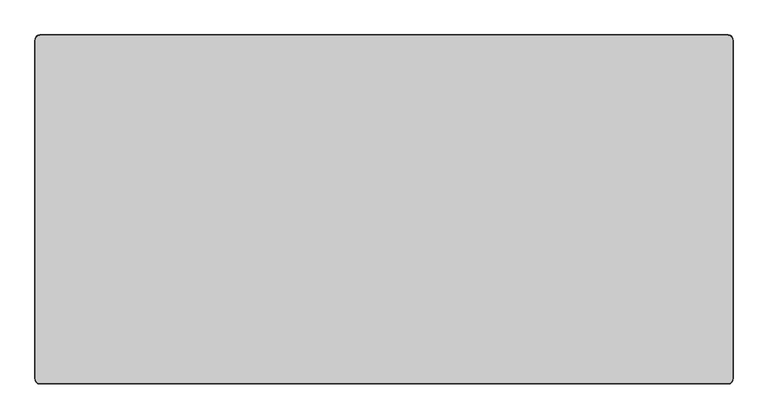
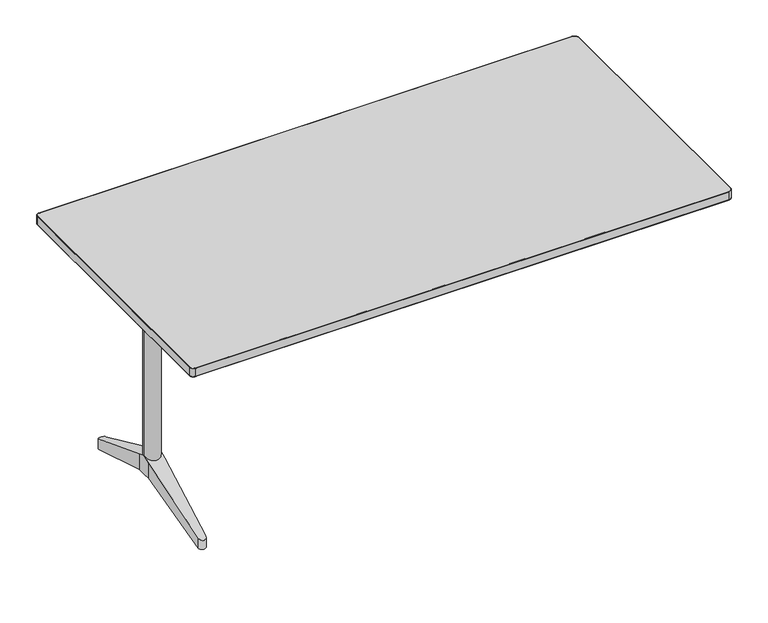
"""IFC4 building model written with IfcOpenShell, lengths in millimetres: furniture geometry, Furniture_Wilkhahn_612-51_TimetableSmart : TIMETABLE SMART 612/51 1500L x 0750W."""

from ifc_helpers import new_model, si_unit, point, frame, frame_2d, origin, place, context, project, spatial, polyline, circle_curve, ellipse_curve, trimmed, segment, composite_curve, outline, extrude, source, transform, mapped, element, save
from ifc_brep_helpers import plane_surface, cylinder_surface, revolved_surface, advanced_brep


def furniture_98f6b03f(model_context):
    return source(origin(), model_context, "Body", "SolidModel", [
        advanced_brep(
        [(-633.227182, -113.0675149, 88.8098467), (-653.3042073, -113.0675149, 88.8098467), (-665.7478455, 103.4511538, 165.9000199), (-620.7835638, 103.4511538, 165.9000199), (-633.2821683, -114.0242798, 118.1504308), (-620.7835661, 103.452023, 210.3603745), (-620.7657234, 125.9511569, 219.9000064), (-665.7657383, 125.9511569, 219.9000064), (-665.7657383, 103.4511538, 210.360006), (-653.2492204, -114.0242831, 118.1504294), (-633.2821683, -114.0242798, 88.8098467), (-653.2492204, -114.0242831, 88.8098467), (-633.227182, 364.9698238, 88.8098467), (-653.3042073, 364.9698238, 88.8098467), (-653.2492204, 365.926592, 88.8098467), (-633.2821683, 365.9265887, 88.8098467), (-620.7835661, 148.4502859, 210.3603745), (-633.2821683, 365.9265887, 118.1504308), (-653.2492204, 365.926592, 118.1504294), (-665.7478455, 148.4511551, 210.360006), (-620.7835638, 148.4502451, 165.9003439), (-665.7478455, 148.4511551, 165.9000199), (-620.7657234, 125.9511544, 165.9000199), (-665.7657383, 125.9511544, 165.9000199)],
        [
            (0, 1),
            (1, 2),
            (2, 3),
            (3, 0),
            (4, 5),
            (5, 6),
            (6, 7),
            (7, 8),
            (8, 9),
            (9, 4, ellipse_curve(frame((-643.2656945, -113.4505156, 118.3937069), z_axis=(0.0, -0.39036065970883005, 0.9206620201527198), x_axis=(0.0, -0.9206620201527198, -0.3903606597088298)), 10.8617492, 10.0)),
            (0, 10),
            (10, 11, circle_curve(frame((-643.2656945, -113.4505156, 88.8098467), z_axis=(0.0, 0.0, -1.0), x_axis=(1.0, 0.0, 0.0)), 10.0)),
            (11, 1),
            (12, 13),
            (13, 14),
            (14, 15, circle_curve(frame((-643.2656945, 365.3528245, 88.8098467), z_axis=(0.0, 0.0, -1.0), x_axis=(1.0, 0.0, 0.0)), 10.0)),
            (15, 12),
            (16, 17),
            (17, 18, ellipse_curve(frame((-643.2656945, 365.3528245, 118.3937069), z_axis=(0.0, 0.39036065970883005, 0.9206620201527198), x_axis=(0.0, 0.9206620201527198, -0.3903606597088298)), 10.8617492, 10.0)),
            (18, 19),
            (19, 7),
            (6, 16),
            (12, 20),
            (20, 21),
            (21, 13),
            (15, 17),
            (16, 20),
            (18, 14),
            (21, 19),
            (4, 10),
            (3, 5),
            (9, 11),
            (8, 2),
            (3, 22),
            (22, 20),
            (21, 23),
            (23, 2),
            (23, 22),
        ],
        [
            plane_surface(frame((-620.7657234, -113.0675149, 88.8098467), z_axis=(0.0, 0.33541814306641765, -0.9420693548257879), x_axis=(-1.0, 0.0, 0.0))),
            plane_surface(frame((-620.7657234, 103.4511538, 210.360006), z_axis=(0.0, -0.39036065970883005, 0.9206620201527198), x_axis=(-1.0, 0.0, 0.0))),
            plane_surface(frame((-620.7657234, -124.5346363, 88.8098467), z_axis=(0.0, 0.0, -1.0), x_axis=(-1.0, 0.0, 0.0))),
            plane_surface(frame((-620.7657234, 364.9698238, 88.8098467), z_axis=(0.0, 0.0, -1.0), x_axis=(-1.0, 0.0, 0.0))),
            plane_surface(frame((-620.7657234, 376.4369452, 113.6940401), z_axis=(0.0, 0.39036065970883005, 0.9206620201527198), x_axis=(-1.0, 0.0, 0.0))),
            plane_surface(frame((-620.7657234, 148.4511551, 165.9000199), z_axis=(0.0, -0.33541814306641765, -0.9420693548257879), x_axis=(-1.0, 0.0, 0.0))),
            plane_surface(frame((-633.2821683, 365.9265887, 234.8098558), z_axis=(0.9983526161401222, 0.0573764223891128, 0.0), x_axis=(0.0, 0.0, -1.0))),
            plane_surface(frame((-665.7478455, 148.4511551, 234.8098558), z_axis=(-0.9983525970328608, 0.0573767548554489, 0.0), x_axis=(0.0, 0.0, -1.0))),
            cylinder_surface(frame((-643.2656945, 365.3528245, 75.8098498), z_axis=(0.0, 0.0, -1.0), x_axis=(1.0, 0.0, 0.0)), 10.0),
            plane_surface(frame((-620.7836161, 103.4511538, 234.8098558), z_axis=(0.9983526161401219, -0.05737642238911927, 0.0), x_axis=(0.0, 0.0, -1.0))),
            cylinder_surface(frame((-643.2656945, -113.4505156, -14.1901527), z_axis=(0.0, 0.0, -1.0), x_axis=(1.0, 0.0, 0.0)), 10.0),
            plane_surface(frame((-653.2492204, -114.0242831, 234.8098558), z_axis=(-0.9983525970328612, -0.05737675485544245, 0.0), x_axis=(0.0, 0.0, -1.0))),
            plane_surface(frame((-620.7657234, 148.4511551, 210.360006), z_axis=(1.0, 0.0, 0.0), x_axis=(0.0, -0.9206619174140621, 0.3903609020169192))),
            plane_surface(frame((-665.7657383, 148.4511551, 210.360006), z_axis=(-1.0, 0.0, 0.0), x_axis=(0.0, 0.9206619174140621, -0.3903609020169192))),
            plane_surface(frame((-620.7657234, 103.4511538, 165.9000199), z_axis=(0.0, 0.0, -1.0), x_axis=(-1.0, 0.0, 0.0))),
            plane_surface(frame((-620.7657234, 125.9511544, 165.9000199), z_axis=(0.0, 0.0, -1.0), x_axis=(-1.0, 0.0, 0.0))),
        ],
        [
            (0, [[1, 2, 3, 4]]),
            (1, [[5, 6, 7, 8, 9, 10]]),
            (2, [[-1, 11, 12, 13]]),
            (3, [[14, 15, 16, 17]]),
            (4, [[18, 19, 20, 21, -7, 22]]),
            (5, [[-14, 23, 24, 25]]),
            (6, [[26, -18, 27, -23, -17]]),
            (7, [[28, -15, -25, 29, -20]]),
            (8, [[-26, -16, -28, -19]]),
            (9, [[30, -11, -4, 31, -5]]),
            (10, [[-30, -10, 32, -12]]),
            (11, [[-32, -9, 33, -2, -13]]),
            (12, [[-22, -6, -31, 34, 35, -27]]),
            (13, [[36, 37, -33, -8, -21, -29]]),
            (14, [[-34, -3, -37, 38]]),
            (15, [[-35, -38, -36, -24]]),
        ],
    ),
        extrude(outline(composite_curve([segment(trimmed(circle_curve(frame_2d((-643.2657309, 125.9511544)), 22.0), [point((-665.2657309, 125.9511544))], [point((-621.2657309, 125.9511544))], False, "CARTESIAN"), True, "CONTINUOUS"), segment(trimmed(circle_curve(frame_2d((-643.2657309, 125.9511544)), 22.0), [point((-621.2657309, 125.9511544))], [point((-665.2657309, 125.9511544))], False, "CARTESIAN"), True, "CONTINUOUS")], self_intersect=False)), frame((0.0, 0.0, 165.9000199), z_axis=(0.0, 0.0, 1.0), x_axis=(1.0, 0.0, 0.0)), (0.0, 0.0, 1.0), 509.0999944),
        extrude(outline(polyline([(-675.0000109, 397.9511544), (-615.0000395, 397.9511544), (-615.0000395, -146.0488456), (-675.0000109, -146.0488456), (-675.0000109, 397.9511544)]), holes=[polyline([(-617.0000628, 65.9511581), (-617.0000628, 175.9511571), (-672.9999876, 175.9511571), (-672.9999876, 65.9511581), (-617.0000628, 65.9511581)])]), frame((0.0, 0.0, 684.9999762), z_axis=(0.0, 0.0, 1.0), x_axis=(1.0, 0.0, 0.0)), (0.0, 0.0, 1.0), 20.0000238),
        extrude(outline(polyline([(615.0000395, 397.9511544), (675.0000109, 397.9511544), (675.0000109, -146.0488456), (615.0000395, -146.0488456), (615.0000395, 397.9511544)]), holes=[polyline([(672.9999876, 65.9511581), (672.9999876, 175.9511571), (617.0000628, 175.9511571), (617.0000628, 65.9511581), (672.9999876, 65.9511581)])]), frame((0.0, 0.0, 684.9999762), z_axis=(0.0, 0.0, 1.0), x_axis=(1.0, 0.0, 0.0)), (0.0, 0.0, 1.0), 20.0000238),
        extrude(outline(polyline([(-620.7657234, 75.9511563), (-665.7657383, 75.9511563), (-665.7657383, 155.951156), (-620.7657234, 155.951156), (-620.7657234, 75.9511563)])), frame((0.0, 0.0, 675.0000143), z_axis=(0.0, 0.0, 1.0), x_axis=(1.0, 0.0, 0.0)), (0.0, 0.0, 1.0), 29.9999857),
        extrude(outline(polyline([(620.7657234, 75.9511563), (620.7657234, 155.951156), (665.7657383, 155.951156), (665.7657383, 75.9511563), (620.7657234, 75.9511563)])), frame((0.0, 0.0, 675.0000143), z_axis=(0.0, 0.0, 1.0), x_axis=(1.0, 0.0, 0.0)), (0.0, 0.0, 1.0), 29.9999857),
        extrude(outline(composite_curve([segment(trimmed(circle_curve(frame_2d((-643.2657309, 125.9511544)), 22.0), [point((-629.9334407, 108.4511533))], [point((-629.9334407, 143.4511556))], True, "CARTESIAN"), True, "CONTINUOUS"), segment(polyline([(-629.9334407, 143.4511556), (629.9334407, 143.4511556)]), True, "CONTINUOUS"), segment(trimmed(circle_curve(frame_2d((643.2657309, 125.9511544)), 22.0), [point((629.9334407, 143.4511556))], [point((629.9334407, 108.4511533))], True, "CARTESIAN"), True, "CONTINUOUS"), segment(polyline([(629.9334407, 108.4511533), (-629.9334407, 108.4511533)]), True, "CONTINUOUS")], self_intersect=False)), frame((0.0, 0.0, 625.0000143), z_axis=(0.0, 0.0, 1.0), x_axis=(1.0, 0.0, 0.0)), (0.0, 0.0, 1.0), 50.0),
        advanced_brep(
        [(-615.0000395, -169.0488456, 676.3914874), (-615.0000395, -169.0488456, 696.3914874), (615.0000395, -169.0488456, 676.3914874), (615.0000395, -169.0488456, 696.3914874), (-607.9107653, -169.0488456, 676.3914874), (-606.463829, -169.0488456, 696.3914874), (-552.9107794, -169.0488456, 668.391467), (-551.4638431, -169.0488456, 688.391467), (552.910768, -169.0488456, 668.391467), (551.4638316, -169.0488456, 688.391467), (607.9107539, -169.0488456, 676.3914874), (606.4638175, -169.0488456, 696.3914874)],
        [
            (0, 1, circle_curve(frame((-615.0000395, -169.0488456, 686.3914874), z_axis=(-1.0, 0.0, 0.0), x_axis=(0.0, 0.0, 1.0)), 10.0)),
            (1, 0, circle_curve(frame((-615.0000395, -169.0488456, 686.3914874), z_axis=(-1.0, 0.0, 0.0), x_axis=(0.0, 0.0, 1.0)), 10.0)),
            (2, 3, circle_curve(frame((615.0000395, -169.0488456, 686.3914874), z_axis=(1.0, 0.0, 0.0), x_axis=(0.0, 0.0, 1.0)), 10.0)),
            (3, 2, circle_curve(frame((615.0000395, -169.0488456, 686.3914874), z_axis=(1.0, 0.0, 0.0), x_axis=(0.0, 0.0, 1.0)), 10.0)),
            (0, 4),
            (4, 5, ellipse_curve(frame((-607.1872971, -169.0488456, 686.3914874), z_axis=(-0.9973931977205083, 0.0, 0.07215822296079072), x_axis=(-0.07215822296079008, 0.0, -0.9973931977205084)), 10.0261362, 10.0)),
            (5, 1),
            (5, 4, ellipse_curve(frame((-607.1872971, -169.0488456, 686.3914874), z_axis=(-0.9973931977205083, 0.0, 0.07215822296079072), x_axis=(-0.07215822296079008, 0.0, -0.9973931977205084)), 10.0261362, 10.0)),
            (4, 6),
            (6, 7, ellipse_curve(frame((-552.1873113, -169.0488456, 678.391467), z_axis=(-0.9973931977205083, 0.0, 0.07215822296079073), x_axis=(0.07215822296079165, 0.0, 0.9973931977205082)), 10.0261362, 10.0)),
            (7, 5),
            (7, 6, ellipse_curve(frame((-552.1873113, -169.0488456, 678.391467), z_axis=(-0.9973931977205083, 0.0, 0.07215822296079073), x_axis=(0.07215822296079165, 0.0, 0.9973931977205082)), 10.0261362, 10.0)),
            (6, 8),
            (8, 9, ellipse_curve(frame((552.1872998, -169.0488456, 678.391467), z_axis=(-0.9973931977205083, 0.0, -0.07215822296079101), x_axis=(-0.07215822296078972, 0.0, 0.9973931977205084)), 10.0261362, 10.0)),
            (9, 7),
            (9, 8, ellipse_curve(frame((552.1872998, -169.0488456, 678.391467), z_axis=(-0.9973931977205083, 0.0, -0.07215822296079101), x_axis=(-0.07215822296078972, 0.0, 0.9973931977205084)), 10.0261362, 10.0)),
            (8, 10),
            (10, 11, ellipse_curve(frame((607.1872857, -169.0488456, 686.3914874), z_axis=(-0.9973931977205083, 0.0, -0.07215822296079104), x_axis=(0.07215822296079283, 0.0, -0.9973931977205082)), 10.0261362, 10.0)),
            (11, 9),
            (11, 10, ellipse_curve(frame((607.1872857, -169.0488456, 686.3914874), z_axis=(-0.9973931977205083, 0.0, -0.07215822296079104), x_axis=(0.07215822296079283, 0.0, -0.9973931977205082)), 10.0261362, 10.0)),
            (10, 2),
            (3, 11),
        ],
        [
            plane_surface(frame((-615.0000395, -146.0488456, 716.6250406), z_axis=(-1.0, 0.0, 0.0), x_axis=(0.0, -1.0, 0.0))),
            plane_surface(frame((615.0000395, -146.0488456, 716.6250406), z_axis=(1.0, 0.0, 0.0), x_axis=(0.0, -1.0, 0.0))),
            cylinder_surface(frame((-615.0000395, -169.0488456, 686.3914874), z_axis=(-1.0, 0.0, 0.0), x_axis=(0.0, 0.0, 1.0)), 10.0),
            cylinder_surface(frame((-609.3518208, -169.0488456, 686.7063281), z_axis=(-0.9895863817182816, 0.0, 0.14394024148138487), x_axis=(0.14394024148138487, 0.0, 0.9895863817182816)), 10.0),
            cylinder_surface(frame((-550.0000099, -169.0488456, 678.391467), z_axis=(-1.0, 0.0, 0.0), x_axis=(0.0, 0.0, 1.0)), 10.0),
            cylinder_surface(frame((554.3518234, -169.0488456, 678.7063077), z_axis=(-0.9895863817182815, 0.0, -0.1439402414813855), x_axis=(-0.1439402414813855, 0.0, 0.9895863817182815)), 10.0),
            cylinder_surface(frame((604.9999844, -169.0488456, 686.3914874), z_axis=(-1.0, 0.0, 0.0), x_axis=(0.0, 0.0, 1.0)), 10.0),
        ],
        [
            (0, [[1, 2]]),
            (1, [[3, 4]]),
            (2, [[-1, 5, 6, 7]]),
            (2, [[-2, -7, 8, -5]]),
            (3, [[-6, 9, 10, 11]]),
            (3, [[-8, -11, 12, -9]]),
            (4, [[-10, 13, 14, 15]]),
            (4, [[-12, -15, 16, -13]]),
            (5, [[-14, 17, 18, 19]]),
            (5, [[-16, -19, 20, -17]]),
            (6, [[-18, 21, -4, 22]]),
            (6, [[-20, -22, -3, -21]]),
        ],
    ),
        extrude(outline(composite_curve([segment(trimmed(circle_curve(frame_2d((-740.0, 490.9511544)), 10.0), [point((-750.0, 490.9511544))], [point((-740.0, 500.9511544))], False, "CARTESIAN"), True, "CONTINUOUS"), segment(polyline([(-740.0, 500.9511544), (740.0, 500.9511544)]), True, "CONTINUOUS"), segment(trimmed(circle_curve(frame_2d((740.0, 490.9511544)), 10.0), [point((740.0, 500.9511544))], [point((750.0, 490.9511544))], False, "CARTESIAN"), True, "CONTINUOUS"), segment(polyline([(750.0, 490.9511544), (750.0, -239.0488456)]), True, "CONTINUOUS"), segment(trimmed(circle_curve(frame_2d((740.0, -239.0488456)), 10.0), [point((750.0, -239.0488456))], [point((740.0, -249.0488456))], False, "CARTESIAN"), True, "CONTINUOUS"), segment(polyline([(740.0, -249.0488456), (-740.0, -249.0488456)]), True, "CONTINUOUS"), segment(trimmed(circle_curve(frame_2d((-740.0, -239.0488456)), 10.0), [point((-740.0, -249.0488456))], [point((-750.0, -239.0488456))], False, "CARTESIAN"), True, "CONTINUOUS"), segment(polyline([(-750.0, -239.0488456), (-750.0, 490.9511544)]), True, "CONTINUOUS")], self_intersect=False)), frame((0.0, 0.0, 705.0), z_axis=(0.0, 0.0, 1.0), x_axis=(1.0, 0.0, 0.0)), (0.0, 0.0, 1.0), 25.0),
        advanced_brep(
        [(750.0, -239.0488456, 705.0), (740.0, -249.0488456, 705.0), (740.0, -249.0488456, 730.0), (750.0, -239.0488456, 730.0), (750.0, 490.9511544, 730.0), (750.0, 490.9511544, 705.0), (740.0, 500.9511544, 705.0), (740.0, 500.9511544, 730.0), (-740.0, 500.9511544, 730.0), (-740.0, 500.9511544, 705.0), (-750.0, 490.9511544, 705.0), (-750.0, 490.9511544, 730.0), (-750.0, -239.0488456, 730.0), (-750.0, -239.0488456, 705.0), (-740.0, -249.0488456, 705.0), (-740.0, -249.0488456, 730.0), (751.0, -239.0488456, 706.0), (740.0, -250.0488456, 706.0), (751.0, -239.0488456, 729.0), (740.0, -250.0488456, 729.0), (751.0, 490.9511544, 706.0), (751.0, 490.9511544, 729.0), (740.0, 501.9511544, 706.0), (740.0, 501.9511544, 729.0), (-740.0, 501.9511544, 706.0), (-740.0, 501.9511544, 729.0), (-751.0, 490.9511544, 706.0), (-751.0, 490.9511544, 729.0), (-751.0, -239.0488456, 706.0), (-751.0, -239.0488456, 729.0), (-740.0, -250.0488456, 706.0), (-740.0, -250.0488456, 729.0)],
        [
            (0, 1, circle_curve(frame((740.0, -239.0488456, 705.0), z_axis=(0.0, 0.0, -1.0), x_axis=(0.0, -1.0, 0.0)), 10.0)),
            (1, 2),
            (2, 3, circle_curve(frame((740.0, -239.0488456, 730.0), z_axis=(0.0, 0.0, 1.0), x_axis=(0.0, -1.0, 0.0)), 10.0)),
            (3, 0),
            (3, 4),
            (4, 5),
            (5, 0),
            (6, 5, circle_curve(frame((740.0, 490.9511544, 705.0), z_axis=(0.0, 0.0, -1.0), x_axis=(1.0, 0.0, 0.0)), 10.0)),
            (4, 7, circle_curve(frame((740.0, 490.9511544, 730.0), z_axis=(0.0, 0.0, 1.0), x_axis=(1.0, 0.0, 0.0)), 10.0)),
            (7, 6),
            (7, 8),
            (8, 9),
            (9, 6),
            (10, 9, circle_curve(frame((-740.0, 490.9511544, 705.0), z_axis=(0.0, 0.0, -1.0), x_axis=(0.0, 1.0, 0.0)), 10.0)),
            (8, 11, circle_curve(frame((-740.0, 490.9511544, 730.0), z_axis=(0.0, 0.0, 1.0), x_axis=(0.0, 1.0, 0.0)), 10.0)),
            (11, 10),
            (11, 12),
            (12, 13),
            (13, 10),
            (14, 13, circle_curve(frame((-740.0, -239.0488456, 705.0), z_axis=(0.0, 0.0, -1.0), x_axis=(-1.0, 0.0, 0.0)), 10.0)),
            (12, 15, circle_curve(frame((-740.0, -239.0488456, 730.0), z_axis=(0.0, 0.0, 1.0), x_axis=(-1.0, 0.0, 0.0)), 10.0)),
            (15, 14),
            (15, 2),
            (1, 14),
            (16, 17, circle_curve(frame((740.0, -239.0488456, 706.0), z_axis=(0.0, 0.0, -1.0), x_axis=(0.0, -1.0, 0.0)), 11.0)),
            (17, 1, circle_curve(frame((740.0, -249.0488456, 706.0), z_axis=(1.0, 0.0, 0.0), x_axis=(0.0, 1.0, 0.0)), 1.0)),
            (0, 16, circle_curve(frame((750.0, -239.0488456, 706.0), z_axis=(0.0, -1.0, 0.0), x_axis=(-1.0, 0.0, 0.0)), 1.0)),
            (18, 19, circle_curve(frame((740.0, -239.0488456, 729.0), z_axis=(0.0, 0.0, -1.0), x_axis=(0.0, -1.0, 0.0)), 11.0)),
            (19, 17),
            (16, 18),
            (2, 19, circle_curve(frame((740.0, -249.0488456, 729.0), z_axis=(1.0, 0.0, 0.0), x_axis=(0.0, 1.0, 0.0)), 1.0)),
            (18, 3, circle_curve(frame((750.0, -239.0488456, 729.0), z_axis=(0.0, -1.0, 0.0), x_axis=(-1.0, 0.0, 0.0)), 1.0)),
            (5, 20, circle_curve(frame((750.0, 490.9511544, 706.0), z_axis=(0.0, -1.0, 0.0), x_axis=(-1.0, 0.0, 0.0)), 1.0)),
            (20, 16),
            (20, 21),
            (21, 18),
            (21, 4, circle_curve(frame((750.0, 490.9511544, 729.0), z_axis=(0.0, -1.0, 0.0), x_axis=(-1.0, 0.0, 0.0)), 1.0)),
            (22, 20, circle_curve(frame((740.0, 490.9511544, 706.0), z_axis=(0.0, 0.0, -1.0), x_axis=(1.0, 0.0, 0.0)), 11.0)),
            (6, 22, circle_curve(frame((740.0, 500.9511544, 706.0), z_axis=(1.0, 0.0, 0.0), x_axis=(0.0, -1.0, 0.0)), 1.0)),
            (23, 21, circle_curve(frame((740.0, 490.9511544, 729.0), z_axis=(0.0, 0.0, -1.0), x_axis=(1.0, 0.0, 0.0)), 11.0)),
            (22, 23),
            (23, 7, circle_curve(frame((740.0, 500.9511544, 729.0), z_axis=(1.0, 0.0, 0.0), x_axis=(0.0, -1.0, 0.0)), 1.0)),
            (9, 24, circle_curve(frame((-740.0, 500.9511544, 706.0), z_axis=(1.0, 0.0, 0.0), x_axis=(0.0, -1.0, 0.0)), 1.0)),
            (24, 22),
            (24, 25),
            (25, 23),
            (25, 8, circle_curve(frame((-740.0, 500.9511544, 729.0), z_axis=(1.0, 0.0, 0.0), x_axis=(0.0, -1.0, 0.0)), 1.0)),
            (26, 24, circle_curve(frame((-740.0, 490.9511544, 706.0), z_axis=(0.0, 0.0, -1.0), x_axis=(0.0, 1.0, 0.0)), 11.0)),
            (10, 26, circle_curve(frame((-750.0, 490.9511544, 706.0), z_axis=(0.0, 1.0, 0.0), x_axis=(1.0, 0.0, 0.0)), 1.0)),
            (27, 25, circle_curve(frame((-740.0, 490.9511544, 729.0), z_axis=(0.0, 0.0, -1.0), x_axis=(0.0, 1.0, 0.0)), 11.0)),
            (26, 27),
            (27, 11, circle_curve(frame((-750.0, 490.9511544, 729.0), z_axis=(0.0, 1.0, 0.0), x_axis=(1.0, 0.0, 0.0)), 1.0)),
            (13, 28, circle_curve(frame((-750.0, -239.0488456, 706.0), z_axis=(0.0, 1.0, 0.0), x_axis=(1.0, 0.0, 0.0)), 1.0)),
            (28, 26),
            (28, 29),
            (29, 27),
            (29, 12, circle_curve(frame((-750.0, -239.0488456, 729.0), z_axis=(0.0, 1.0, 0.0), x_axis=(1.0, 0.0, 0.0)), 1.0)),
            (30, 28, circle_curve(frame((-740.0, -239.0488456, 706.0), z_axis=(0.0, 0.0, -1.0), x_axis=(-1.0, 0.0, 0.0)), 11.0)),
            (14, 30, circle_curve(frame((-740.0, -249.0488456, 706.0), z_axis=(-1.0, 0.0, 0.0), x_axis=(0.0, 1.0, 0.0)), 1.0)),
            (31, 29, circle_curve(frame((-740.0, -239.0488456, 729.0), z_axis=(0.0, 0.0, -1.0), x_axis=(-1.0, 0.0, 0.0)), 11.0)),
            (30, 31),
            (31, 15, circle_curve(frame((-740.0, -249.0488456, 729.0), z_axis=(-1.0, 0.0, 0.0), x_axis=(0.0, 1.0, 0.0)), 1.0)),
            (17, 30),
            (19, 31),
        ],
        [
            revolved_surface(polyline([(740.0, -249.0488456, 730.0), (740.0, -249.0488456, 705.0)]), (740.0, -239.0488456, 730.0), (0.0, 0.0, 1.0)),
            plane_surface(frame((750.0, -239.0488456, 730.0), z_axis=(-1.0, 0.0, 0.0), x_axis=(0.0, 1.0, 0.0))),
            revolved_surface(polyline([(750.0, 490.9511544, 730.0), (750.0, 490.9511544, 705.0)]), (740.0, 490.9511544, 730.0), (0.0, 0.0, 1.0)),
            plane_surface(frame((740.0, 500.9511544, 730.0), z_axis=(0.0, -1.0, 0.0), x_axis=(-1.0, 0.0, 0.0))),
            revolved_surface(polyline([(-740.0, 500.9511544, 730.0), (-740.0, 500.9511544, 705.0)]), (-740.0, 490.9511544, 730.0), (0.0, 0.0, 1.0)),
            plane_surface(frame((-750.0, 490.9511544, 730.0), z_axis=(1.0, 0.0, 0.0), x_axis=(0.0, -1.0, 0.0))),
            revolved_surface(polyline([(-750.0, -239.0488456, 730.0), (-750.0, -239.0488456, 705.0)]), (-740.0, -239.0488456, 730.0), (0.0, 0.0, 1.0)),
            plane_surface(frame((-740.0, -249.0488456, 730.0), z_axis=(0.0, 1.0, 0.0), x_axis=(1.0, 0.0, 0.0))),
            revolved_surface(trimmed(ellipse_curve(frame((740.0, -249.0488456, 706.0), z_axis=(-1.0, 0.0, 0.0), x_axis=(0.0, 1.0, 0.0)), 1.0, 1.0), [point((740.0, -249.0488456, 705.0))], [point((740.0, -250.0488456, 706.0))], True, "CARTESIAN"), (740.0, -239.0488456, 730.0), (0.0, 0.0, 1.0)),
            cylinder_surface(frame((740.0, -239.0488456, 730.0), z_axis=(0.0, 0.0, 1.0), x_axis=(0.0, -1.0, 0.0)), 11.0),
            revolved_surface(trimmed(ellipse_curve(frame((740.0, -249.0488456, 729.0), z_axis=(-1.0, 0.0, 0.0), x_axis=(0.0, 1.0, 0.0)), 1.0, 1.0), [point((740.0, -250.0488456, 729.0))], [point((740.0, -249.0488456, 730.0))], True, "CARTESIAN"), (740.0, -239.0488456, 730.0), (0.0, 0.0, 1.0)),
            cylinder_surface(frame((750.0, -239.0488456, 706.0), z_axis=(0.0, -1.0, 0.0), x_axis=(-1.0, 0.0, 0.0)), 1.0),
            plane_surface(frame((751.0, -239.0488456, 706.0), z_axis=(1.0, 0.0, 0.0), x_axis=(0.0, 1.0, 0.0))),
            cylinder_surface(frame((750.0, -239.0488456, 729.0), z_axis=(0.0, -1.0, 0.0), x_axis=(-1.0, 0.0, 0.0)), 1.0),
            revolved_surface(trimmed(ellipse_curve(frame((750.0, 490.9511544, 706.0), z_axis=(0.0, -1.0, 0.0), x_axis=(-1.0, 0.0, 0.0)), 1.0, 1.0), [point((750.0, 490.9511544, 705.0))], [point((751.0, 490.9511544, 706.0))], True, "CARTESIAN"), (740.0, 490.9511544, 730.0), (0.0, 0.0, 1.0)),
            cylinder_surface(frame((740.0, 490.9511544, 730.0), z_axis=(0.0, 0.0, 1.0), x_axis=(1.0, 0.0, 0.0)), 11.0),
            revolved_surface(trimmed(ellipse_curve(frame((750.0, 490.9511544, 729.0), z_axis=(0.0, -1.0, 0.0), x_axis=(-1.0, 0.0, 0.0)), 1.0, 1.0), [point((751.0, 490.9511544, 729.0))], [point((750.0, 490.9511544, 730.0))], True, "CARTESIAN"), (740.0, 490.9511544, 730.0), (0.0, 0.0, 1.0)),
            cylinder_surface(frame((740.0, 500.9511544, 706.0), z_axis=(1.0, 0.0, 0.0), x_axis=(0.0, -1.0, 0.0)), 1.0),
            plane_surface(frame((740.0, 501.9511544, 706.0), z_axis=(0.0, 1.0, 0.0), x_axis=(-1.0, 0.0, 0.0))),
            cylinder_surface(frame((740.0, 500.9511544, 729.0), z_axis=(1.0, 0.0, 0.0), x_axis=(0.0, -1.0, 0.0)), 1.0),
            revolved_surface(trimmed(ellipse_curve(frame((-740.0, 500.9511544, 706.0), z_axis=(1.0, 0.0, 0.0), x_axis=(0.0, -1.0, 0.0)), 1.0, 1.0), [point((-740.0, 500.9511544, 705.0))], [point((-740.0, 501.9511544, 706.0))], True, "CARTESIAN"), (-740.0, 490.9511544, 730.0), (0.0, 0.0, 1.0)),
            cylinder_surface(frame((-740.0, 490.9511544, 730.0), z_axis=(0.0, 0.0, 1.0), x_axis=(0.0, 1.0, 0.0)), 11.0),
            revolved_surface(trimmed(ellipse_curve(frame((-740.0, 500.9511544, 729.0), z_axis=(1.0, 0.0, 0.0), x_axis=(0.0, -1.0, 0.0)), 1.0, 1.0), [point((-740.0, 501.9511544, 729.0))], [point((-740.0, 500.9511544, 730.0))], True, "CARTESIAN"), (-740.0, 490.9511544, 730.0), (0.0, 0.0, 1.0)),
            cylinder_surface(frame((-750.0, 490.9511544, 706.0), z_axis=(0.0, 1.0, 0.0), x_axis=(1.0, 0.0, 0.0)), 1.0),
            plane_surface(frame((-751.0, 490.9511544, 706.0), z_axis=(-1.0, 0.0, 0.0), x_axis=(0.0, -1.0, 0.0))),
            cylinder_surface(frame((-750.0, 490.9511544, 729.0), z_axis=(0.0, 1.0, 0.0), x_axis=(1.0, 0.0, 0.0)), 1.0),
            revolved_surface(trimmed(ellipse_curve(frame((-750.0, -239.0488456, 706.0), z_axis=(0.0, 1.0, 0.0), x_axis=(1.0, 0.0, 0.0)), 1.0, 1.0), [point((-750.0, -239.0488456, 705.0))], [point((-751.0, -239.0488456, 706.0))], True, "CARTESIAN"), (-740.0, -239.0488456, 730.0), (0.0, 0.0, 1.0)),
            cylinder_surface(frame((-740.0, -239.0488456, 730.0), z_axis=(0.0, 0.0, 1.0), x_axis=(-1.0, 0.0, 0.0)), 11.0),
            revolved_surface(trimmed(ellipse_curve(frame((-750.0, -239.0488456, 729.0), z_axis=(0.0, 1.0, 0.0), x_axis=(1.0, 0.0, 0.0)), 1.0, 1.0), [point((-751.0, -239.0488456, 729.0))], [point((-750.0, -239.0488456, 730.0))], True, "CARTESIAN"), (-740.0, -239.0488456, 730.0), (0.0, 0.0, 1.0)),
            cylinder_surface(frame((-740.0, -249.0488456, 706.0), z_axis=(-1.0, 0.0, 0.0), x_axis=(0.0, 1.0, 0.0)), 1.0),
            plane_surface(frame((-740.0, -250.0488456, 706.0), z_axis=(0.0, -1.0, 0.0), x_axis=(1.0, 0.0, 0.0))),
            cylinder_surface(frame((-740.0, -249.0488456, 729.0), z_axis=(-1.0, 0.0, 0.0), x_axis=(0.0, 1.0, 0.0)), 1.0),
        ],
        [
            (0, [[1, 2, 3, 4]]),
            (1, [[-4, 5, 6, 7]]),
            (2, [[8, -6, 9, 10]]),
            (3, [[-10, 11, 12, 13]]),
            (4, [[14, -12, 15, 16]]),
            (5, [[-16, 17, 18, 19]]),
            (6, [[20, -18, 21, 22]]),
            (7, [[-22, 23, -2, 24]]),
            (8, [[25, 26, -1, 27]]),
            (9, [[28, 29, -25, 30]]),
            (10, [[-3, 31, -28, 32]]),
            (11, [[-27, -7, 33, 34]]),
            (12, [[-30, -34, 35, 36]]),
            (13, [[-32, -36, 37, -5]]),
            (14, [[38, -33, -8, 39]]),
            (15, [[40, -35, -38, 41]]),
            (16, [[-9, -37, -40, 42]]),
            (17, [[-39, -13, 43, 44]]),
            (18, [[-41, -44, 45, 46]]),
            (19, [[-42, -46, 47, -11]]),
            (20, [[48, -43, -14, 49]]),
            (21, [[50, -45, -48, 51]]),
            (22, [[-15, -47, -50, 52]]),
            (23, [[-49, -19, 53, 54]]),
            (24, [[-51, -54, 55, 56]]),
            (25, [[-52, -56, 57, -17]]),
            (26, [[58, -53, -20, 59]]),
            (27, [[60, -55, -58, 61]]),
            (28, [[-21, -57, -60, 62]]),
            (29, [[-59, -24, -26, 63]]),
            (30, [[-61, -63, -29, 64]]),
            (31, [[-62, -64, -31, -23]]),
        ],
    ),
    ])


if __name__ == "__main__":
    model = new_model("IFC4")
    model_context = context("Model", 3, world=origin())
    ifc_project = project(units=[si_unit("LENGTHUNIT", "METRE", prefix="MILLI")], contexts=[model_context])
    site = spatial("IfcSite", under=ifc_project)
    building = spatial("IfcBuilding", under=site)
    placement = place(None, origin())
    furniture_shape = furniture_98f6b03f(model_context)
    element("IfcFurniture", 1, ObjectType="Furniture_Wilkhahn_612-51_TimetableSmart : TIMETABLE SMART 612/51 1500L x 0750W", at=placement, inside=building, context=model_context, shape_type="MappedRepresentation", body=[
        mapped(furniture_shape, transform((0.0, 0.0, 0.0), x_axis=(1.0, 0.0, 0.0), y_axis=(0.0, 1.0, 0.0), z_axis=(0.0, 0.0, 1.0))),
    ])
    save(model, "model.ifc")
